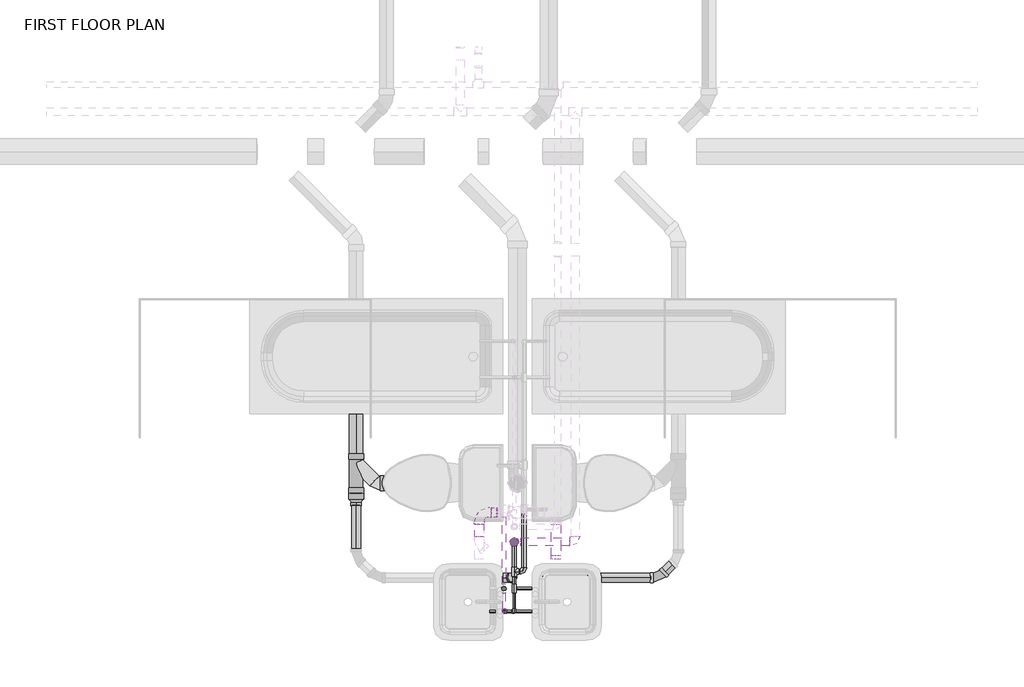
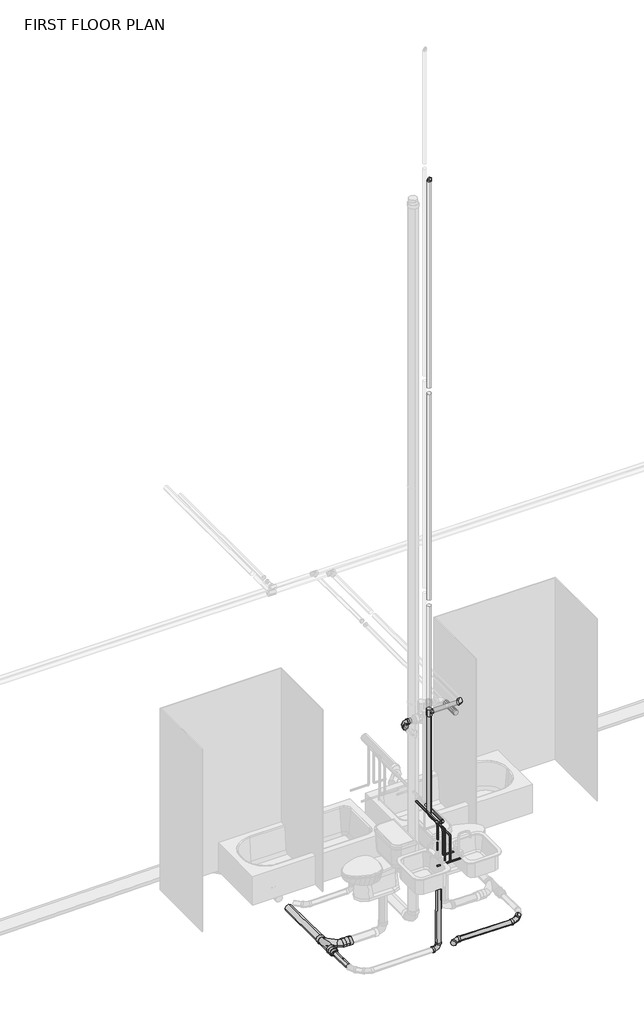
# One storey, part 5 of 29: 29 pipe fittings, 29 pipe segments.
"""IFC4 building model written with IfcOpenShell, lengths in millimetres."""

from ifc_helpers import new_model, si_unit, point, frame, frame_2d, origin, place, context, project, spatial, circle_curve, trimmed, segment, composite_curve, outline, extrude, transform, mapped, element, save
from ifc_brep_helpers import plane_surface, cylinder_surface, advanced_brep
from components import bend_pvc_sch_40_dwv_standard_f2f5988a, bend_pvc_sch_40_dwv_standard_e264ddd1, bend_pvc_sch_40_dwv_standard_a5f90810, bend_pvc_sch_40_dwv_standard_49f8c181, pipe_elbow_copper_k_764eecca, pipe_elbow_copper_k_aad62f2d, pipe_elbow_copper_k_a25a5501, pipe_tee_copper_k_36278b8a, pipe_tee_copper_k_ee363fbf, pipe_tee_copper_k_feafe2f1, pipe_transition_copper_k_859ff352, pipe_transition_copper_k_a6a91236, pipe_transition_copper_k_b4f16853, reducer_pvc_sch_40_dwv_standard_464ee0c2, reducer_pvc_sch_40_dwv_standard_80dbeaf5, standard_544587f6

model = new_model("IFC4")

# Units and contexts
model_context = context("Model", 3, world=origin())
ifc_project = project(units=[si_unit("LENGTHUNIT", "METRE", prefix="MILLI")], contexts=[model_context])

# Site, building, storey
site = spatial("IfcSite", under=ifc_project)
building = spatial("IfcBuilding", under=site)
storey = spatial("IfcBuildingStorey", under=building, Name="FIRST FLOOR PLAN", Elevation=0.0)

# Pipe fittings
placement = place(None, origin())
bend_pvc_sch_40_dwv_standard_shape = bend_pvc_sch_40_dwv_standard_f2f5988a(model_context)
element("IfcPipeFitting", 1, ObjectType="Bend - PVC - Sch 40 - DWV : Standard", at=placement, inside=storey, context=model_context, shape_type="MappedRepresentation", body=[
    mapped(bend_pvc_sch_40_dwv_standard_shape, transform((2284.2889102, 2692.9880146, -491.7174932), x_axis=(-0.9999455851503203, 0.0, 0.010432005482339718), y_axis=(-1.6591869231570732e-07, -0.9999999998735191, -1.590390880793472e-05), z_axis=(0.010432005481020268, -1.5904774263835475e-05, 0.9999455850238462))),
])
bend_pvc_sch_40_dwv_standard_2_shape = bend_pvc_sch_40_dwv_standard_e264ddd1(model_context)
element("IfcPipeFitting", 2, ObjectType="Bend - PVC - Sch 40 - DWV : Standard", at=placement, inside=storey, context=model_context, shape_type="MappedRepresentation", body=[
    mapped(bend_pvc_sch_40_dwv_standard_2_shape, transform((3054.9555598, 2692.9880146, -499.7575294), x_axis=(-0.7070684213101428, -0.7070684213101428, 0.010416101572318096), y_axis=(0.7070681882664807, -0.7071320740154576, -0.004336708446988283), z_axis=(0.01043190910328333, 0.0042985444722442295, 0.99993634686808))),
])
bend_pvc_sch_40_dwv_standard_3_shape = bend_pvc_sch_40_dwv_standard_a5f90810(model_context)
element("IfcPipeFitting", 3, ObjectType="Bend - PVC - Sch 40 - DWV : Standard", at=placement, inside=storey, context=model_context, shape_type="MappedRepresentation", body=[
    mapped(bend_pvc_sch_40_dwv_standard_3_shape, transform((2074.9736405, 2692.6283846, -517.6621546), x_axis=(-0.007495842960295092, -0.004298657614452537, -0.9999626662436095), y_axis=(-0.9999719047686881, 7.70746407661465e-05, 0.007495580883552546), z_axis=(4.485082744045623e-05, 0.9999907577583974, -0.0042991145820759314))),
])
bend_pvc_sch_40_dwv_standard_4_shape = bend_pvc_sch_40_dwv_standard_49f8c181(model_context)
element("IfcPipeFitting", 4, ObjectType="Bend - PVC - Sch 40 - DWV : Standard", at=placement, inside=storey, context=model_context, shape_type="MappedRepresentation", body=[
    mapped(bend_pvc_sch_40_dwv_standard_4_shape, transform((1864.3084875, 3124.1638117, 2298.6990858), x_axis=(0.0, 0.9999999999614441, -8.78134569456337e-06), y_axis=(-1.0000000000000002, 0.0, 0.0), z_axis=(0.0, 8.78134569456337e-06, 0.9999999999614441))),
])
element("IfcPipeFitting", 5, ObjectType="Bend - PVC - Sch 40 - DWV : Standard", at=placement, inside=storey, context=model_context, shape_type="MappedRepresentation", body=[
    mapped(bend_pvc_sch_40_dwv_standard_4_shape, transform((1864.3084875, 3124.2039607, 2298.7416851), x_axis=(0.0, 0.9999999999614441, -8.78134569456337e-06), y_axis=(-1.0000000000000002, 0.0, 0.0), z_axis=(0.0, 8.78134569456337e-06, 0.9999999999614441))),
])
pipe_elbow_copper_k_shape = pipe_elbow_copper_k_764eecca(model_context)
element("IfcPipeFitting", 6, ObjectType="Pipe Elbow : Copper- K", at=placement, inside=storey, context=model_context, shape_type="MappedRepresentation", body=[
    mapped(pipe_elbow_copper_k_shape, transform((2499.3084875, 2929.398977, 2490.6882812), x_axis=(1.0, 0.0, 0.0), y_axis=(0.0, 1.0, 0.0), z_axis=(0.0, 0.0, 1.0))),
])
pipe_elbow_copper_k_2_shape = pipe_elbow_copper_k_aad62f2d(model_context)
element("IfcPipeFitting", 7, ObjectType="Pipe Elbow : Copper- K", at=placement, inside=storey, context=model_context, shape_type="MappedRepresentation", body=[
    mapped(pipe_elbow_copper_k_2_shape, transform((2096.0834875, 2468.1949561, 1117.6), x_axis=(0.0, -1.0, 0.0), y_axis=(0.0, 0.0, -1.0), z_axis=(1.0, 0.0, 0.0))),
])
element("IfcPipeFitting", 8, ObjectType="Pipe Elbow : Copper- K", at=placement, inside=storey, context=model_context, shape_type="MappedRepresentation", body=[
    mapped(pipe_elbow_copper_k_2_shape, transform((2096.0834875, 2468.1949561, 762.0), x_axis=(0.0, 0.0, -1.0), y_axis=(-1.0, 0.0, 0.0), z_axis=(0.0, 1.0, 0.0))),
])
element("IfcPipeFitting", 9, ObjectType="Pipe Elbow : Copper- K", at=placement, inside=storey, context=model_context, shape_type="MappedRepresentation", body=[
    mapped(pipe_elbow_copper_k_2_shape, transform((2096.0834875, 2620.8535326, 762.0), x_axis=(0.0, 0.0, -1.0), y_axis=(1.0, 0.0, 0.0), z_axis=(0.0, -1.0, 0.0))),
])
element("IfcPipeFitting", 10, ObjectType="Pipe Elbow : Copper- K", at=placement, inside=storey, context=model_context, shape_type="MappedRepresentation", body=[
    mapped(pipe_elbow_copper_k_2_shape, transform((2027.8209875, 2468.1949561, 1219.2), x_axis=(0.0, -1.0, 0.0), y_axis=(0.0, 0.0, -1.0), z_axis=(1.0, 0.0, 0.0))),
])
element("IfcPipeFitting", 11, ObjectType="Pipe Elbow : Copper- K", at=placement, inside=storey, context=model_context, shape_type="MappedRepresentation", body=[
    mapped(pipe_elbow_copper_k_2_shape, transform((2027.8209875, 2468.1949561, 762.0), x_axis=(0.0, 0.0, -1.0), y_axis=(1.0, 0.0, 0.0), z_axis=(0.0, -1.0, 0.0))),
])
element("IfcPipeFitting", 12, ObjectType="Pipe Elbow : Copper- K", at=placement, inside=storey, context=model_context, shape_type="MappedRepresentation", body=[
    mapped(pipe_elbow_copper_k_2_shape, transform((2027.8209875, 2620.8535326, 792.4601563), x_axis=(0.0, 0.0, -1.0), y_axis=(-1.0, 0.0, 0.0), z_axis=(0.0, 1.0, 0.0))),
])
pipe_elbow_copper_k_3_shape = pipe_elbow_copper_k_a25a5501(model_context)
element("IfcPipeFitting", 13, ObjectType="Pipe Elbow : Copper- K", at=placement, inside=storey, context=model_context, shape_type="MappedRepresentation", body=[
    mapped(pipe_elbow_copper_k_3_shape, transform((2159.5834875, 2733.1182853, 1117.6), x_axis=(1.0, 0.0, 0.0), y_axis=(0.0, 1.0, 0.0), z_axis=(0.0, 0.0, 1.0))),
])
element("IfcPipeFitting", 14, ObjectType="Pipe Elbow : Copper- K", at=placement, inside=storey, context=model_context, shape_type="MappedRepresentation", body=[
    mapped(pipe_elbow_copper_k_3_shape, transform((2096.0834875, 2929.398977, 1117.6), x_axis=(0.0, 0.0, -1.0), y_axis=(0.0, -1.0, 0.0), z_axis=(-1.0, 0.0, 0.0))),
])
element("IfcPipeFitting", 15, ObjectType="Pipe Elbow : Copper- K", at=placement, inside=storey, context=model_context, shape_type="MappedRepresentation", body=[
    mapped(pipe_elbow_copper_k_3_shape, transform((2096.0834875, 2929.398977, 9652.0), x_axis=(0.0, 0.0, 1.0), y_axis=(0.0, -1.0, 0.0), z_axis=(1.0, 0.0, 0.0))),
])
pipe_tee_copper_k_shape = pipe_tee_copper_k_36278b8a(model_context)
element("IfcPipeFitting", 16, ObjectType="Pipe Tee : Copper- K", at=placement, inside=storey, context=model_context, shape_type="MappedRepresentation", body=[
    mapped(pipe_tee_copper_k_shape, transform((2096.0834875, 2929.398977, 2490.6882812), x_axis=(0.0, 0.0, -1.0), y_axis=(-1.0, 0.0, 0.0), z_axis=(0.0, 1.0, 0.0))),
])
pipe_tee_copper_k_2_shape = pipe_tee_copper_k_ee363fbf(model_context)
element("IfcPipeFitting", 17, ObjectType="Pipe Tee : Copper- K", at=placement, inside=storey, context=model_context, shape_type="MappedRepresentation", body=[
    mapped(pipe_tee_copper_k_2_shape, transform((2096.0834875, 2620.8535326, 1117.6), x_axis=(0.0, 1.0, 0.0), y_axis=(0.0, 0.0, 1.0), z_axis=(1.0, 0.0, 0.0))),
])
element("IfcPipeFitting", 18, ObjectType="Pipe Tee : Copper- K", at=placement, inside=storey, context=model_context, shape_type="MappedRepresentation", body=[
    mapped(pipe_tee_copper_k_2_shape, transform((2027.8209875, 2620.8535326, 1219.2), x_axis=(0.0, 1.0, 0.0), y_axis=(0.0, 0.0, 1.0), z_axis=(1.0, 0.0, 0.0))),
])
pipe_tee_copper_k_3_shape = pipe_tee_copper_k_feafe2f1(model_context)
element("IfcPipeFitting", 19, ObjectType="Pipe Tee : Copper- K", at=placement, inside=storey, context=model_context, shape_type="MappedRepresentation", body=[
    mapped(pipe_tee_copper_k_3_shape, transform((2096.0834875, 2733.1182853, 1117.6), x_axis=(0.0, 1.0, 0.0), y_axis=(-1.0, 0.0, 0.0), z_axis=(0.0, 0.0, 1.0))),
])
pipe_transition_copper_k_shape = pipe_transition_copper_k_859ff352(model_context)
element("IfcPipeFitting", 20, ObjectType="Pipe Transition : Copper- K", at=placement, inside=storey, context=model_context, shape_type="MappedRepresentation", body=[
    mapped(pipe_transition_copper_k_shape, transform((2096.0834875, 2620.8535326, 1090.6125), x_axis=(0.0, 0.0, -1.0), y_axis=(0.0, 1.0, 0.0), z_axis=(1.0, 0.0, 0.0))),
])
element("IfcPipeFitting", 21, ObjectType="Pipe Transition : Copper- K", at=placement, inside=storey, context=model_context, shape_type="MappedRepresentation", body=[
    mapped(pipe_transition_copper_k_shape, transform((2096.0834875, 2593.8660326, 1117.6), x_axis=(0.0, -1.0, 0.0), y_axis=(1.0, 0.0, 0.0), z_axis=(0.0, 0.0, 1.0))),
])
element("IfcPipeFitting", 22, ObjectType="Pipe Transition : Copper- K", at=placement, inside=storey, context=model_context, shape_type="MappedRepresentation", body=[
    mapped(pipe_transition_copper_k_shape, transform((2027.8209875, 2620.8535326, 1192.2125), x_axis=(0.0, 0.0, -1.0), y_axis=(0.0, -1.0, 0.0), z_axis=(-1.0, 0.0, 0.0))),
])
element("IfcPipeFitting", 23, ObjectType="Pipe Transition : Copper- K", at=placement, inside=storey, context=model_context, shape_type="MappedRepresentation", body=[
    mapped(pipe_transition_copper_k_shape, transform((2027.8209875, 2593.8660326, 1219.2), x_axis=(0.0, -1.0, 0.0), y_axis=(1.0, 0.0, 0.0), z_axis=(0.0, 0.0, 1.0))),
])
pipe_transition_copper_k_2_shape = pipe_transition_copper_k_a6a91236(model_context)
element("IfcPipeFitting", 24, ObjectType="Pipe Transition : Copper- K", at=placement, inside=storey, context=model_context, shape_type="MappedRepresentation", body=[
    mapped(pipe_transition_copper_k_2_shape, transform((2096.0834875, 2929.398977, 1154.90625), x_axis=(0.0, 0.0, -1.0), y_axis=(0.0, 1.0, 0.0), z_axis=(1.0, 0.0, 0.0))),
])
element("IfcPipeFitting", 25, ObjectType="Pipe Transition : Copper- K", at=placement, inside=storey, context=model_context, shape_type="MappedRepresentation", body=[
    mapped(pipe_transition_copper_k_2_shape, transform((2096.0834875, 2929.398977, 9614.69375), x_axis=(0.0, 0.0, 1.0), y_axis=(0.0, 1.0, 0.0), z_axis=(-1.0, 0.0, 0.0))),
])
pipe_transition_copper_k_3_shape = pipe_transition_copper_k_b4f16853(model_context)
element("IfcPipeFitting", 26, ObjectType="Pipe Transition : Copper- K", at=placement, inside=storey, context=model_context, shape_type="MappedRepresentation", body=[
    mapped(pipe_transition_copper_k_3_shape, transform((2096.0834875, 2702.9557853, 1117.6), x_axis=(0.0, -1.0, 0.0), y_axis=(1.0, 0.0, 0.0), z_axis=(0.0, 0.0, 1.0))),
])
reducer_pvc_sch_40_dwv_standard_shape = reducer_pvc_sch_40_dwv_standard_464ee0c2(model_context)
element("IfcPipeFitting", 27, ObjectType="Reducer - PVC - Sch 40 - DWV : Standard", at=placement, inside=storey, context=model_context, shape_type="MappedRepresentation", body=[
    mapped(reducer_pvc_sch_40_dwv_standard_shape, transform((1048.8502354, 3250.4060923, -533.3474231), x_axis=(0.0, -0.9999457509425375, 0.010416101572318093), y_axis=(0.9999457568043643, 0.00010848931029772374, 0.010414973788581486), z_axis=(-0.01041553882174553, 0.010415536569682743, 0.999891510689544))),
])
reducer_pvc_sch_40_dwv_standard_2_shape = reducer_pvc_sch_40_dwv_standard_80dbeaf5(model_context)
element("IfcPipeFitting", 28, ObjectType="Reducer - PVC - Sch 40 - DWV : Standard", at=placement, inside=storey, context=model_context, shape_type="MappedRepresentation", body=[
    mapped(reducer_pvc_sch_40_dwv_standard_2_shape, transform((1246.4769147, 3317.5011695, -531.9877185), x_axis=(0.9999457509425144, 2.1621181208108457e-07, 0.01041610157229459), y_axis=(0.00010827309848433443, 0.9999457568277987, -0.010414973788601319), z_axis=(-0.010415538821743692, 0.010415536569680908, 0.9998915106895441))),
])
standard_shape = standard_544587f6(model_context)
element("IfcPipeFitting", 29, ObjectType="GES Wye Combination with 8th Bend - PVC - Sch 40 - DWV : Standard", at=placement, inside=storey, context=model_context, shape_type="MappedRepresentation", body=[
    mapped(standard_shape, transform((1048.8502354, 3317.5011268, -534.0463298), x_axis=(0.0, -0.9999457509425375, 0.010416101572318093), y_axis=(-0.9999457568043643, -0.00010848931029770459, -0.010414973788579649), z_axis=(0.010415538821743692, -0.010415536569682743, -0.999891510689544))),
])

# Pipe segments
element("IfcPipeSegment", 30, ObjectType="Copper", at=placement, inside=storey, context=model_context, shape_type="SweptSolid", body=[
    extrude(outline(composite_curve([segment(trimmed(circle_curve(frame_2d((2929.398977, 2490.6882812)), 26.9875), [point((2956.386477, 2490.6882812))], [point((2929.398977, 2463.7007812))], False, "CARTESIAN"), True, "CONTINUOUS"), segment(trimmed(circle_curve(frame_2d((2929.398977, 2490.6882812)), 26.9875), [point((2929.398977, 2463.7007812))], [point((2902.411477, 2490.6882812))], False, "CARTESIAN"), True, "CONTINUOUS"), segment(trimmed(circle_curve(frame_2d((2929.398977, 2490.6882812)), 26.9875), [point((2902.411477, 2490.6882812))], [point((2929.398977, 2517.6757812))], False, "CARTESIAN"), True, "CONTINUOUS"), segment(trimmed(circle_curve(frame_2d((2929.398977, 2490.6882812)), 26.9875), [point((2929.398977, 2517.6757812))], [point((2956.386477, 2490.6882812))], False, "CARTESIAN"), True, "CONTINUOUS")], self_intersect=False)), frame((2138.9459875, 0.0, 0.0), z_axis=(1.0, 0.0, 0.0), x_axis=(0.0, 1.0, 0.0)), (0.0, 0.0, 1.0), 323.85),
])
element("IfcPipeSegment", 31, ObjectType="Copper", at=placement, inside=storey, context=model_context, shape_type="SweptSolid", body=[
    extrude(outline(composite_curve([segment(trimmed(circle_curve(frame_2d((2096.0834875, 2929.398977)), 26.9875), [point((2069.0959875, 2929.398977))], [point((2096.0834875, 2956.386477))], False, "CARTESIAN"), True, "CONTINUOUS"), segment(trimmed(circle_curve(frame_2d((2096.0834875, 2929.398977)), 26.9875), [point((2096.0834875, 2956.386477))], [point((2123.0709875, 2929.398977))], False, "CARTESIAN"), True, "CONTINUOUS"), segment(trimmed(circle_curve(frame_2d((2096.0834875, 2929.398977)), 26.9875), [point((2123.0709875, 2929.398977))], [point((2096.0834875, 2902.411477))], False, "CARTESIAN"), True, "CONTINUOUS"), segment(trimmed(circle_curve(frame_2d((2096.0834875, 2929.398977)), 26.9875), [point((2096.0834875, 2902.411477))], [point((2069.0959875, 2929.398977))], False, "CARTESIAN"), True, "CONTINUOUS")], self_intersect=False)), frame((0.0, 0.0, 6850.0625), z_axis=(0.0, 0.0, 1.0), x_axis=(1.0, 0.0, 0.0)), (0.0, 0.0, 1.0), 2764.63125),
])
element("IfcPipeSegment", 32, ObjectType="Copper", at=placement, inside=storey, context=model_context, shape_type="SweptSolid", body=[
    extrude(outline(composite_curve([segment(trimmed(circle_curve(frame_2d((2096.0834875, 2929.398977)), 26.9875), [point((2069.0959875, 2929.398977))], [point((2096.0834875, 2956.386477))], False, "CARTESIAN"), True, "CONTINUOUS"), segment(trimmed(circle_curve(frame_2d((2096.0834875, 2929.398977)), 26.9875), [point((2096.0834875, 2956.386477))], [point((2123.0709875, 2929.398977))], False, "CARTESIAN"), True, "CONTINUOUS"), segment(trimmed(circle_curve(frame_2d((2096.0834875, 2929.398977)), 26.9875), [point((2123.0709875, 2929.398977))], [point((2096.0834875, 2902.411477))], False, "CARTESIAN"), True, "CONTINUOUS"), segment(trimmed(circle_curve(frame_2d((2096.0834875, 2929.398977)), 26.9875), [point((2096.0834875, 2902.411477))], [point((2069.0959875, 2929.398977))], False, "CARTESIAN"), True, "CONTINUOUS")], self_intersect=False)), frame((0.0, 0.0, 2533.5507812), z_axis=(0.0, 0.0, 1.0), x_axis=(1.0, 0.0, 0.0)), (0.0, 0.0, 1.0), 1385.9867188),
])
element("IfcPipeSegment", 33, ObjectType="Copper", at=placement, inside=storey, context=model_context, shape_type="SweptSolid", body=[
    extrude(outline(composite_curve([segment(trimmed(circle_curve(frame_2d((1117.6, 2096.0834875)), 7.9375), [point((1117.6, 2088.1459875))], [point((1109.6625, 2096.0834875))], False, "CARTESIAN"), True, "CONTINUOUS"), segment(trimmed(circle_curve(frame_2d((1117.6, 2096.0834875)), 7.9375), [point((1109.6625, 2096.0834875))], [point((1117.6, 2104.0209875))], False, "CARTESIAN"), True, "CONTINUOUS"), segment(trimmed(circle_curve(frame_2d((1117.6, 2096.0834875)), 7.9375), [point((1117.6, 2104.0209875))], [point((1125.5375, 2096.0834875))], False, "CARTESIAN"), True, "CONTINUOUS"), segment(trimmed(circle_curve(frame_2d((1117.6, 2096.0834875)), 7.9375), [point((1125.5375, 2096.0834875))], [point((1117.6, 2088.1459875))], False, "CARTESIAN"), True, "CONTINUOUS")], self_intersect=False)), frame((0.0, 2485.6574561, 0.0), z_axis=(0.0, 1.0, 0.0), x_axis=(0.0, 0.0, 1.0)), (0.0, 0.0, 1.0), 102.6523264),
])
element("IfcPipeSegment", 34, ObjectType="Copper", at=placement, inside=storey, context=model_context, shape_type="SweptSolid", body=[
    extrude(outline(composite_curve([segment(trimmed(circle_curve(frame_2d((2468.1949561, 762.0)), 7.9375), [point((2476.1324561, 762.0))], [point((2468.1949561, 754.0625))], False, "CARTESIAN"), True, "CONTINUOUS"), segment(trimmed(circle_curve(frame_2d((2468.1949561, 762.0)), 7.9375), [point((2468.1949561, 754.0625))], [point((2460.2574561, 762.0))], False, "CARTESIAN"), True, "CONTINUOUS"), segment(trimmed(circle_curve(frame_2d((2468.1949561, 762.0)), 7.9375), [point((2460.2574561, 762.0))], [point((2468.1949561, 769.9375))], False, "CARTESIAN"), True, "CONTINUOUS"), segment(trimmed(circle_curve(frame_2d((2468.1949561, 762.0)), 7.9375), [point((2468.1949561, 769.9375))], [point((2476.1324561, 762.0))], False, "CARTESIAN"), True, "CONTINUOUS")], self_intersect=False)), frame((1934.1584875, 0.0, 0.0), z_axis=(1.0, 0.0, 0.0), x_axis=(0.0, 1.0, 0.0)), (0.0, 0.0, 1.0), 144.4625),
])
element("IfcPipeSegment", 35, ObjectType="Copper", at=placement, inside=storey, context=model_context, shape_type="SweptSolid", body=[
    extrude(outline(composite_curve([segment(trimmed(circle_curve(frame_2d((2096.0834875, 2468.1949561)), 7.9375), [point((2104.0209875, 2468.1949561))], [point((2096.0834875, 2460.2574561))], False, "CARTESIAN"), True, "CONTINUOUS"), segment(trimmed(circle_curve(frame_2d((2096.0834875, 2468.1949561)), 7.9375), [point((2096.0834875, 2460.2574561))], [point((2088.1459875, 2468.1949561))], False, "CARTESIAN"), True, "CONTINUOUS"), segment(trimmed(circle_curve(frame_2d((2096.0834875, 2468.1949561)), 7.9375), [point((2088.1459875, 2468.1949561))], [point((2096.0834875, 2476.1324561))], False, "CARTESIAN"), True, "CONTINUOUS"), segment(trimmed(circle_curve(frame_2d((2096.0834875, 2468.1949561)), 7.9375), [point((2096.0834875, 2476.1324561))], [point((2104.0209875, 2468.1949561))], False, "CARTESIAN"), True, "CONTINUOUS")], self_intersect=False)), frame((0.0, 0.0, 779.4625), z_axis=(0.0, 0.0, 1.0), x_axis=(1.0, 0.0, 0.0)), (0.0, 0.0, 1.0), 320.675),
])
element("IfcPipeSegment", 36, ObjectType="Copper", at=placement, inside=storey, context=model_context, shape_type="SweptSolid", body=[
    extrude(outline(composite_curve([segment(trimmed(circle_curve(frame_2d((2620.8535326, 762.0)), 7.9375), [point((2612.9160326, 762.0))], [point((2620.8535326, 769.9375))], False, "CARTESIAN"), True, "CONTINUOUS"), segment(trimmed(circle_curve(frame_2d((2620.8535326, 762.0)), 7.9375), [point((2620.8535326, 769.9375))], [point((2628.7910326, 762.0))], False, "CARTESIAN"), True, "CONTINUOUS"), segment(trimmed(circle_curve(frame_2d((2620.8535326, 762.0)), 7.9375), [point((2628.7910326, 762.0))], [point((2620.8535326, 754.0625))], False, "CARTESIAN"), True, "CONTINUOUS"), segment(trimmed(circle_curve(frame_2d((2620.8535326, 762.0)), 7.9375), [point((2620.8535326, 754.0625))], [point((2612.9160326, 762.0))], False, "CARTESIAN"), True, "CONTINUOUS")], self_intersect=False)), frame((2113.5459875, 0.0, 0.0), z_axis=(1.0, 0.0, 0.0), x_axis=(0.0, 1.0, 0.0)), (0.0, 0.0, 1.0), 133.35),
])
element("IfcPipeSegment", 37, ObjectType="Copper", at=placement, inside=storey, context=model_context, shape_type="SweptSolid", body=[
    extrude(outline(composite_curve([segment(trimmed(circle_curve(frame_2d((2096.0834875, 2620.8535326)), 7.9375), [point((2104.0209875, 2620.8535326))], [point((2096.0834875, 2612.9160326))], False, "CARTESIAN"), True, "CONTINUOUS"), segment(trimmed(circle_curve(frame_2d((2096.0834875, 2620.8535326)), 7.9375), [point((2096.0834875, 2612.9160326))], [point((2088.1459875, 2620.8535326))], False, "CARTESIAN"), True, "CONTINUOUS"), segment(trimmed(circle_curve(frame_2d((2096.0834875, 2620.8535326)), 7.9375), [point((2088.1459875, 2620.8535326))], [point((2096.0834875, 2628.7910326))], False, "CARTESIAN"), True, "CONTINUOUS"), segment(trimmed(circle_curve(frame_2d((2096.0834875, 2620.8535326)), 7.9375), [point((2096.0834875, 2628.7910326))], [point((2104.0209875, 2620.8535326))], False, "CARTESIAN"), True, "CONTINUOUS")], self_intersect=False)), frame((0.0, 0.0, 779.4625), z_axis=(0.0, 0.0, 1.0), x_axis=(1.0, 0.0, 0.0)), (0.0, 0.0, 1.0), 305.59375),
])
element("IfcPipeSegment", 38, ObjectType="Copper", at=placement, inside=storey, context=model_context, shape_type="SweptSolid", body=[
    extrude(outline(composite_curve([segment(trimmed(circle_curve(frame_2d((1117.6, 2096.0834875)), 11.1125), [point((1117.6, 2084.9709875))], [point((1106.4875, 2096.0834875))], False, "CARTESIAN"), True, "CONTINUOUS"), segment(trimmed(circle_curve(frame_2d((1117.6, 2096.0834875)), 11.1125), [point((1106.4875, 2096.0834875))], [point((1117.6, 2107.1959875))], False, "CARTESIAN"), True, "CONTINUOUS"), segment(trimmed(circle_curve(frame_2d((1117.6, 2096.0834875)), 11.1125), [point((1117.6, 2107.1959875))], [point((1128.7125, 2096.0834875))], False, "CARTESIAN"), True, "CONTINUOUS"), segment(trimmed(circle_curve(frame_2d((1117.6, 2096.0834875)), 11.1125), [point((1128.7125, 2096.0834875))], [point((1117.6, 2084.9709875))], False, "CARTESIAN"), True, "CONTINUOUS")], self_intersect=False)), frame((0.0, 2647.8410326, 0.0), z_axis=(0.0, 1.0, 0.0), x_axis=(0.0, 0.0, 1.0)), (0.0, 0.0, 1.0), 47.9710027),
])
element("IfcPipeSegment", 39, ObjectType="Copper", at=placement, inside=storey, context=model_context, shape_type="SweptSolid", body=[
    extrude(outline(composite_curve([segment(trimmed(circle_curve(frame_2d((1219.2, 2027.8209875)), 7.9375), [point((1219.2, 2019.8834875))], [point((1211.2625, 2027.8209875))], False, "CARTESIAN"), True, "CONTINUOUS"), segment(trimmed(circle_curve(frame_2d((1219.2, 2027.8209875)), 7.9375), [point((1211.2625, 2027.8209875))], [point((1219.2, 2035.7584875))], False, "CARTESIAN"), True, "CONTINUOUS"), segment(trimmed(circle_curve(frame_2d((1219.2, 2027.8209875)), 7.9375), [point((1219.2, 2035.7584875))], [point((1227.1375, 2027.8209875))], False, "CARTESIAN"), True, "CONTINUOUS"), segment(trimmed(circle_curve(frame_2d((1219.2, 2027.8209875)), 7.9375), [point((1227.1375, 2027.8209875))], [point((1219.2, 2019.8834875))], False, "CARTESIAN"), True, "CONTINUOUS")], self_intersect=False)), frame((0.0, 2485.6574561, 0.0), z_axis=(0.0, 1.0, 0.0), x_axis=(0.0, 0.0, 1.0)), (0.0, 0.0, 1.0), 102.6523264),
])
element("IfcPipeSegment", 40, ObjectType="Copper", at=placement, inside=storey, context=model_context, shape_type="SweptSolid", body=[
    extrude(outline(composite_curve([segment(trimmed(circle_curve(frame_2d((2468.1949561, 762.0)), 7.9375), [point((2460.2574561, 762.0))], [point((2468.1949561, 769.9375))], False, "CARTESIAN"), True, "CONTINUOUS"), segment(trimmed(circle_curve(frame_2d((2468.1949561, 762.0)), 7.9375), [point((2468.1949561, 769.9375))], [point((2476.1324561, 762.0))], False, "CARTESIAN"), True, "CONTINUOUS"), segment(trimmed(circle_curve(frame_2d((2468.1949561, 762.0)), 7.9375), [point((2476.1324561, 762.0))], [point((2468.1949561, 754.0625))], False, "CARTESIAN"), True, "CONTINUOUS"), segment(trimmed(circle_curve(frame_2d((2468.1949561, 762.0)), 7.9375), [point((2468.1949561, 754.0625))], [point((2460.2574561, 762.0))], False, "CARTESIAN"), True, "CONTINUOUS")], self_intersect=False)), frame((2045.2834875, 0.0, 0.0), z_axis=(1.0, 0.0, 0.0), x_axis=(0.0, 1.0, 0.0)), (0.0, 0.0, 1.0), 192.0875),
])
element("IfcPipeSegment", 41, ObjectType="Copper", at=placement, inside=storey, context=model_context, shape_type="SweptSolid", body=[
    extrude(outline(composite_curve([segment(trimmed(circle_curve(frame_2d((2027.8209875, 2468.1949561)), 7.9375), [point((2035.7584875, 2468.1949561))], [point((2027.8209875, 2460.2574561))], False, "CARTESIAN"), True, "CONTINUOUS"), segment(trimmed(circle_curve(frame_2d((2027.8209875, 2468.1949561)), 7.9375), [point((2027.8209875, 2460.2574561))], [point((2019.8834875, 2468.1949561))], False, "CARTESIAN"), True, "CONTINUOUS"), segment(trimmed(circle_curve(frame_2d((2027.8209875, 2468.1949561)), 7.9375), [point((2019.8834875, 2468.1949561))], [point((2027.8209875, 2476.1324561))], False, "CARTESIAN"), True, "CONTINUOUS"), segment(trimmed(circle_curve(frame_2d((2027.8209875, 2468.1949561)), 7.9375), [point((2027.8209875, 2476.1324561))], [point((2035.7584875, 2468.1949561))], False, "CARTESIAN"), True, "CONTINUOUS")], self_intersect=False)), frame((0.0, 0.0, 779.4625), z_axis=(0.0, 0.0, 1.0), x_axis=(1.0, 0.0, 0.0)), (0.0, 0.0, 1.0), 422.275),
])
element("IfcPipeSegment", 42, ObjectType="Copper", at=placement, inside=storey, context=model_context, shape_type="SweptSolid", body=[
    extrude(outline(composite_curve([segment(trimmed(circle_curve(frame_2d((2027.8209875, 2620.8535326)), 7.9375), [point((2035.7584875, 2620.8535326))], [point((2027.8209875, 2612.9160326))], False, "CARTESIAN"), True, "CONTINUOUS"), segment(trimmed(circle_curve(frame_2d((2027.8209875, 2620.8535326)), 7.9375), [point((2027.8209875, 2612.9160326))], [point((2019.8834875, 2620.8535326))], False, "CARTESIAN"), True, "CONTINUOUS"), segment(trimmed(circle_curve(frame_2d((2027.8209875, 2620.8535326)), 7.9375), [point((2019.8834875, 2620.8535326))], [point((2027.8209875, 2628.7910326))], False, "CARTESIAN"), True, "CONTINUOUS"), segment(trimmed(circle_curve(frame_2d((2027.8209875, 2620.8535326)), 7.9375), [point((2027.8209875, 2628.7910326))], [point((2035.7584875, 2620.8535326))], False, "CARTESIAN"), True, "CONTINUOUS")], self_intersect=False)), frame((0.0, 0.0, 809.9226562), z_axis=(0.0, 0.0, 1.0), x_axis=(1.0, 0.0, 0.0)), (0.0, 0.0, 1.0), 376.7335937),
])
element("IfcPipeSegment", 43, ObjectType="Copper", at=placement, inside=storey, context=model_context, shape_type="SweptSolid", body=[
    extrude(outline(composite_curve([segment(trimmed(circle_curve(frame_2d((1219.2, 2027.8209875)), 11.1125), [point((1219.2, 2016.7084875))], [point((1208.0875, 2027.8209875))], False, "CARTESIAN"), True, "CONTINUOUS"), segment(trimmed(circle_curve(frame_2d((1219.2, 2027.8209875)), 11.1125), [point((1208.0875, 2027.8209875))], [point((1219.2, 2038.9334875))], False, "CARTESIAN"), True, "CONTINUOUS"), segment(trimmed(circle_curve(frame_2d((1219.2, 2027.8209875)), 11.1125), [point((1219.2, 2038.9334875))], [point((1230.3125, 2027.8209875))], False, "CARTESIAN"), True, "CONTINUOUS"), segment(trimmed(circle_curve(frame_2d((1219.2, 2027.8209875)), 11.1125), [point((1230.3125, 2027.8209875))], [point((1219.2, 2016.7084875))], False, "CARTESIAN"), True, "CONTINUOUS")], self_intersect=False)), frame((0.0, 2647.8410326, 0.0), z_axis=(0.0, 1.0, 0.0), x_axis=(0.0, 0.0, 1.0)), (0.0, 0.0, 1.0), 446.7666062),
])
element("IfcPipeSegment", 44, ObjectType="Copper", at=placement, inside=storey, context=model_context, shape_type="SweptSolid", body=[
    extrude(outline(composite_curve([segment(trimmed(circle_curve(frame_2d((2733.1182853, 1117.6)), 14.2875), [point((2718.8307853, 1117.6))], [point((2733.1182853, 1131.8875))], False, "CARTESIAN"), True, "CONTINUOUS"), segment(trimmed(circle_curve(frame_2d((2733.1182853, 1117.6)), 14.2875), [point((2733.1182853, 1131.8875))], [point((2747.4057853, 1117.6))], False, "CARTESIAN"), True, "CONTINUOUS"), segment(trimmed(circle_curve(frame_2d((2733.1182853, 1117.6)), 14.2875), [point((2747.4057853, 1117.6))], [point((2733.1182853, 1103.3125))], False, "CARTESIAN"), True, "CONTINUOUS"), segment(trimmed(circle_curve(frame_2d((2733.1182853, 1117.6)), 14.2875), [point((2733.1182853, 1103.3125))], [point((2718.8307853, 1117.6))], False, "CARTESIAN"), True, "CONTINUOUS")], self_intersect=False)), frame((2126.2459875, 0.0, 0.0), z_axis=(1.0, 0.0, 0.0), x_axis=(0.0, 1.0, 0.0)), (0.0, 0.0, 1.0), 9.525),
])
element("IfcPipeSegment", 45, ObjectType="Copper", at=placement, inside=storey, context=model_context, shape_type="SweptSolid", body=[
    extrude(outline(composite_curve([segment(trimmed(circle_curve(frame_2d((1117.6, 2096.0834875)), 14.2875), [point((1117.6, 2081.7959875))], [point((1103.3125, 2096.0834875))], False, "CARTESIAN"), True, "CONTINUOUS"), segment(trimmed(circle_curve(frame_2d((1117.6, 2096.0834875)), 14.2875), [point((1103.3125, 2096.0834875))], [point((1117.6, 2110.3709875))], False, "CARTESIAN"), True, "CONTINUOUS"), segment(trimmed(circle_curve(frame_2d((1117.6, 2096.0834875)), 14.2875), [point((1117.6, 2110.3709875))], [point((1131.8875, 2096.0834875))], False, "CARTESIAN"), True, "CONTINUOUS"), segment(trimmed(circle_curve(frame_2d((1117.6, 2096.0834875)), 14.2875), [point((1131.8875, 2096.0834875))], [point((1117.6, 2081.7959875))], False, "CARTESIAN"), True, "CONTINUOUS")], self_intersect=False)), frame((0.0, 2763.2807853, 0.0), z_axis=(0.0, 1.0, 0.0), x_axis=(0.0, 0.0, 1.0)), (0.0, 0.0, 1.0), 142.3056917),
])
element("IfcPipeSegment", 46, ObjectType="Copper", at=placement, inside=storey, context=model_context, shape_type="SweptSolid", body=[
    extrude(outline(composite_curve([segment(trimmed(circle_curve(frame_2d((1117.6, 2159.5834875)), 14.2875), [point((1117.6, 2173.8709875))], [point((1131.8875, 2159.5834875))], False, "CARTESIAN"), True, "CONTINUOUS"), segment(trimmed(circle_curve(frame_2d((1117.6, 2159.5834875)), 14.2875), [point((1131.8875, 2159.5834875))], [point((1117.6, 2145.2959875))], False, "CARTESIAN"), True, "CONTINUOUS"), segment(trimmed(circle_curve(frame_2d((1117.6, 2159.5834875)), 14.2875), [point((1117.6, 2145.2959875))], [point((1103.3125, 2159.5834875))], False, "CARTESIAN"), True, "CONTINUOUS"), segment(trimmed(circle_curve(frame_2d((1117.6, 2159.5834875)), 14.2875), [point((1103.3125, 2159.5834875))], [point((1117.6, 2173.8709875))], False, "CARTESIAN"), True, "CONTINUOUS")], self_intersect=False)), frame((0.0, 2756.9307853, 0.0), z_axis=(0.0, 1.0, 0.0), x_axis=(0.0, 0.0, 1.0)), (0.0, 0.0, 1.0), 357.7813964),
])
element("IfcPipeSegment", 47, ObjectType="Copper", at=placement, inside=storey, context=model_context, shape_type="SweptSolid", body=[
    extrude(outline(composite_curve([segment(trimmed(circle_curve(frame_2d((2096.0834875, 2929.398977)), 26.9875), [point((2123.0709875, 2929.398977))], [point((2096.0834875, 2902.411477))], False, "CARTESIAN"), True, "CONTINUOUS"), segment(trimmed(circle_curve(frame_2d((2096.0834875, 2929.398977)), 26.9875), [point((2096.0834875, 2902.411477))], [point((2069.0959875, 2929.398977))], False, "CARTESIAN"), True, "CONTINUOUS"), segment(trimmed(circle_curve(frame_2d((2096.0834875, 2929.398977)), 26.9875), [point((2069.0959875, 2929.398977))], [point((2096.0834875, 2956.386477))], False, "CARTESIAN"), True, "CONTINUOUS"), segment(trimmed(circle_curve(frame_2d((2096.0834875, 2929.398977)), 26.9875), [point((2096.0834875, 2956.386477))], [point((2123.0709875, 2929.398977))], False, "CARTESIAN"), True, "CONTINUOUS")], self_intersect=False)), frame((0.0, 0.0, 1154.90625), z_axis=(0.0, 0.0, 1.0), x_axis=(1.0, 0.0, 0.0)), (0.0, 0.0, 1.0), 1292.9195313),
])
element("IfcPipeSegment", 48, ObjectType="Copper", at=placement, inside=storey, context=model_context, shape_type="SweptSolid", body=[
    extrude(outline(composite_curve([segment(trimmed(circle_curve(frame_2d((2096.0834875, 2929.398977)), 26.9875), [point((2069.0959875, 2929.398977))], [point((2096.0834875, 2956.386477))], False, "CARTESIAN"), True, "CONTINUOUS"), segment(trimmed(circle_curve(frame_2d((2096.0834875, 2929.398977)), 26.9875), [point((2096.0834875, 2956.386477))], [point((2123.0709875, 2929.398977))], False, "CARTESIAN"), True, "CONTINUOUS"), segment(trimmed(circle_curve(frame_2d((2096.0834875, 2929.398977)), 26.9875), [point((2123.0709875, 2929.398977))], [point((2096.0834875, 2902.411477))], False, "CARTESIAN"), True, "CONTINUOUS"), segment(trimmed(circle_curve(frame_2d((2096.0834875, 2929.398977)), 26.9875), [point((2096.0834875, 2902.411477))], [point((2069.0959875, 2929.398977))], False, "CARTESIAN"), True, "CONTINUOUS")], self_intersect=False)), frame((0.0, 0.0, 4005.2625), z_axis=(0.0, 0.0, 1.0), x_axis=(1.0, 0.0, 0.0)), (0.0, 0.0, 1.0), 2759.075),
])
element("IfcPipeSegment", 49, ObjectType="PVC - SAN/STORM", at=placement, inside=storey, context=model_context, shape_type="SweptSolid", body=[
    extrude(outline(composite_curve([segment(trimmed(circle_curve(frame_2d((0.0, -30.1625)), 30.1625), [point((0.0, -60.325))], [point((-30.1625, -30.1625))], False, "CARTESIAN"), True, "CONTINUOUS"), segment(trimmed(circle_curve(frame_2d((0.0, -30.1625)), 30.1625), [point((-30.1625, -30.1625))], [point((0.0, 0.0))], False, "CARTESIAN"), True, "CONTINUOUS"), segment(trimmed(circle_curve(frame_2d((0.0, -30.1625)), 30.1625), [point((0.0, 0.0))], [point((30.1625, -30.1625))], False, "CARTESIAN"), True, "CONTINUOUS"), segment(trimmed(circle_curve(frame_2d((0.0, -30.1625)), 30.1625), [point((30.1625, -30.1625))], [point((0.0, -60.325))], False, "CARTESIAN"), True, "CONTINUOUS")], self_intersect=False)), frame((2997.8086696, 2723.1505146, -499.1613403), z_axis=(-0.9999455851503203, 0.0, 0.010432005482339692), x_axis=(0.010432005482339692, 0.0, 0.9999455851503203)), (0.0, 0.0, 1.0), 656.4085876),
])
element("IfcPipeSegment", 50, ObjectType="PVC - SAN/STORM", at=placement, inside=storey, context=model_context, shape_type="SweptSolid", body=[
    extrude(outline(composite_curve([segment(trimmed(circle_curve(frame_2d((0.0, -30.1625)), 30.1625), [point((30.1608639, -30.4766586))], [point((-0.3141586, -60.3233639))], False, "CARTESIAN"), True, "CONTINUOUS"), segment(trimmed(circle_curve(frame_2d((0.0, -30.1625)), 30.1625), [point((-0.3141586, -60.3233639))], [point((-30.1608638, -29.8483414))], False, "CARTESIAN"), True, "CONTINUOUS"), segment(trimmed(circle_curve(frame_2d((0.0, -30.1625)), 30.1625), [point((-30.1608638, -29.8483414))], [point((0.3141586, -0.0016361))], False, "CARTESIAN"), True, "CONTINUOUS"), segment(trimmed(circle_curve(frame_2d((0.0, -30.1625)), 30.1625), [point((0.3141586, -0.0016361))], [point((30.1608639, -30.4766586))], False, "CARTESIAN"), True, "CONTINUOUS")], self_intersect=False)), frame((3141.9119388, 2780.388681, -470.8792901), z_axis=(-0.7070684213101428, -0.707068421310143, 0.010416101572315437), x_axis=(0.7071451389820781, -0.7069917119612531, 0.010414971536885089)), (0.0, 0.0, 1.0), 65.8315622),
])
element("IfcPipeSegment", 51, ObjectType="PVC - SAN/STORM", at=placement, inside=storey, context=model_context, shape_type="SweptSolid", body=[
    extrude(outline(composite_curve([segment(trimmed(circle_curve(frame_2d((0.0, -30.1625)), 30.1625), [point((30.1625, -30.1625))], [point((0.0, -60.325))], False, "CARTESIAN"), True, "CONTINUOUS"), segment(trimmed(circle_curve(frame_2d((0.0, -30.1625)), 30.1625), [point((0.0, -60.325))], [point((-30.1625, -30.1625))], False, "CARTESIAN"), True, "CONTINUOUS"), segment(trimmed(circle_curve(frame_2d((0.0, -30.1625)), 30.1625), [point((-30.1625, -30.1625))], [point((0.0, 0.0))], False, "CARTESIAN"), True, "CONTINUOUS"), segment(trimmed(circle_curve(frame_2d((0.0, -30.1625)), 30.1625), [point((0.0, 0.0))], [point((30.1625, -30.1625))], False, "CARTESIAN"), True, "CONTINUOUS")], self_intersect=False)), frame((1048.8502354, 3171.349574, -502.3597814), z_axis=(0.0, -0.9999457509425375, 0.010416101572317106), x_axis=(1.0, 0.0, 0.0)), (0.0, 0.0, 1.0), 285.6031763),
])
element("IfcPipeSegment", 52, ObjectType="PVC - SAN/STORM", at=placement, inside=storey, context=model_context, shape_type="SweptSolid", body=[
    extrude(outline(composite_curve([segment(trimmed(circle_curve(frame_2d((0.0, -44.45)), 44.45), [point((44.45, -44.45))], [point((0.0, -88.9))], False, "CARTESIAN"), True, "CONTINUOUS"), segment(trimmed(circle_curve(frame_2d((0.0, -44.45)), 44.45), [point((0.0, -88.9))], [point((-44.45, -44.45))], False, "CARTESIAN"), True, "CONTINUOUS"), segment(trimmed(circle_curve(frame_2d((0.0, -44.45)), 44.45), [point((-44.45, -44.45))], [point((0.0, 0.0))], False, "CARTESIAN"), True, "CONTINUOUS"), segment(trimmed(circle_curve(frame_2d((0.0, -44.45)), 44.45), [point((0.0, 0.0))], [point((44.45, -44.45))], False, "CARTESIAN"), True, "CONTINUOUS")], self_intersect=False)), frame((1048.8502354, 4209.7923802, -498.8886188), z_axis=(0.0, -0.9999457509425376, 0.010416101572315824), x_axis=(1.0, 0.0, 0.0)), (0.0, 0.0, 1.0), 695.0439157),
])
element("IfcPipeSegment", 53, ObjectType="PVC - SAN/STORM", at=placement, inside=storey, context=model_context, shape_type="SweptSolid", body=[
    extrude(outline(composite_curve([segment(trimmed(circle_curve(frame_2d((0.0, -30.1625)), 30.1625), [point((-15.0055046, -3.9974233))], [point((26.1650768, -15.1569954))], False, "CARTESIAN"), True, "CONTINUOUS"), segment(trimmed(circle_curve(frame_2d((0.0, -30.1625)), 30.1625), [point((26.1650768, -15.1569954))], [point((15.0055046, -56.3275767))], False, "CARTESIAN"), True, "CONTINUOUS"), segment(trimmed(circle_curve(frame_2d((0.0, -30.1625)), 30.1625), [point((15.0055046, -56.3275767))], [point((-26.1650767, -45.1680045))], False, "CARTESIAN"), True, "CONTINUOUS"), segment(trimmed(circle_curve(frame_2d((0.0, -30.1625)), 30.1625), [point((-26.1650767, -45.1680045))], [point((-15.0055046, -3.9974233))], False, "CARTESIAN"), True, "CONTINUOUS")], self_intersect=False)), frame((2075.5568186, 2723.1250423, -439.9945211), z_axis=(0.007495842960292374, 0.0042986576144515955, 0.9999626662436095), x_axis=(0.9999719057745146, -3.222296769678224e-05, -0.007495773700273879)), (0.0, 0.0, 1.0), 862.2119669),
])
element("IfcPipeSegment", 54, ObjectType="PVC - SAN/STORM", at=placement, inside=storey, context=model_context, shape_type="AdvancedBrep", body=[
    advanced_brep(
    [(2402.4709874, 2838.1336985, 2451.0905344), (2372.3084874, 2838.1323611, 2481.2530343), (2342.1459874, 2838.1336991, 2451.0905344), (2372.3084874, 2838.1350364, 2420.9280344), (2402.4709894, 3046.3636114, 2451.0997691), (2372.3084894, 3046.3649493, 2420.9372691), (2342.1459894, 3046.363612, 2451.0997691), (2372.3084894, 3046.362274, 2481.2622691)],
    [
        (0, 1, circle_curve(frame((2372.3084874, 2838.1336985, 2451.0905344), z_axis=(0.0, -0.9999999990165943, -4.434874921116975e-05), x_axis=(1.0, 0.0, 0.0)), 30.1625)),
        (1, 2, circle_curve(frame((2372.3084874, 2838.1336988, 2451.0905344), z_axis=(0.0, -0.9999999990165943, -4.434874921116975e-05), x_axis=(1.0, 0.0, 0.0)), 30.1625)),
        (2, 3, circle_curve(frame((2372.3084874, 2838.1336991, 2451.0905344), z_axis=(0.0, -0.9999999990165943, -4.434874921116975e-05), x_axis=(1.0, 0.0, 0.0)), 30.1625)),
        (3, 0, circle_curve(frame((2372.3084874, 2838.1336988, 2451.0905344), z_axis=(0.0, -0.9999999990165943, -4.434874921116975e-05), x_axis=(1.0, 0.0, 0.0)), 30.1625)),
        (4, 5, circle_curve(frame((2372.3084874, 3046.3636114, 2451.0997691), z_axis=(0.0, 0.9999999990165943, 4.434874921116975e-05), x_axis=(1.0, 0.0, 0.0)), 30.162502)),
        (5, 6, circle_curve(frame((2372.3084874, 3046.3636117, 2451.0997691), z_axis=(0.0, 0.9999999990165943, 4.434874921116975e-05), x_axis=(1.0, 0.0, 0.0)), 30.1625)),
        (6, 7, circle_curve(frame((2372.3084874, 3046.363612, 2451.0997691), z_axis=(0.0, 0.9999999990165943, 4.434874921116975e-05), x_axis=(1.0, 0.0, 0.0)), 30.162498)),
        (7, 4, circle_curve(frame((2372.3084874, 3046.3636117, 2451.0997691), z_axis=(0.0, 0.9999999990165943, 4.434874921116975e-05), x_axis=(1.0, 0.0, 0.0)), 30.1625)),
        (0, 4),
        (7, 1),
        (6, 2),
        (5, 3),
    ],
    [
        plane_surface(frame((2342.1459874, 2838.1336991, 2451.0905344), z_axis=(-9.71344828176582e-09, -0.9999999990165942, -4.4348749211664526e-05), x_axis=(0.0, -4.434874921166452e-05, 0.9999999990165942))),
        plane_surface(frame((2342.1459894, 3046.363612, 2451.0997691), z_axis=(9.71344828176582e-09, 0.9999999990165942, 4.4348749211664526e-05), x_axis=(0.0, -4.434874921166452e-05, 0.9999999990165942))),
        cylinder_surface(frame((2372.3084874, 2838.1336988, 2451.0905344), z_axis=(0.0, -0.9999999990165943, -4.434874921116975e-05), x_axis=(1.0, 0.0, 0.0)), 30.1625),
    ],
    [
        (0, [[1, 2, 3, 4]]),
        (1, [[5, 6, 7, 8]]),
        (2, [[-1, 9, -8, 10]]),
        (2, [[-2, -10, -7, 11]]),
        (2, [[-3, -11, -6, 12]]),
        (2, [[-4, -12, -5, -9]]),
    ],
),
])
element("IfcPipeSegment", 55, ObjectType="PVC - SAN/STORM", at=placement, inside=storey, context=model_context, shape_type="SweptSolid", body=[
    extrude(outline(composite_curve([segment(trimmed(circle_curve(frame_2d((3124.1638117, 2298.6990858)), 30.1625), [point((3094.0013117, 2298.6990858))], [point((3124.1638117, 2328.8615858))], False, "CARTESIAN"), True, "CONTINUOUS"), segment(trimmed(circle_curve(frame_2d((3124.1638117, 2298.6990858)), 30.1625), [point((3124.1638117, 2328.8615858))], [point((3154.3263117, 2298.6990858))], False, "CARTESIAN"), True, "CONTINUOUS"), segment(trimmed(circle_curve(frame_2d((3124.1638117, 2298.6990858)), 30.1625), [point((3154.3263117, 2298.6990858))], [point((3124.1638117, 2268.5365858))], False, "CARTESIAN"), True, "CONTINUOUS"), segment(trimmed(circle_curve(frame_2d((3124.1638117, 2298.6990858)), 30.1625), [point((3124.1638117, 2268.5365858))], [point((3094.0013117, 2298.6990858))], False, "CARTESIAN"), True, "CONTINUOUS")], self_intersect=False)), frame((1942.1086875, 0.0, 0.0), z_axis=(1.0, 0.0, 0.0), x_axis=(0.0, 1.0, 0.0)), (0.0, 0.0, 1.0), 41.2622926),
])
element("IfcPipeSegment", 56, ObjectType="PVC - SAN/STORM", at=placement, inside=storey, context=model_context, shape_type="AdvancedBrep", body=[
    advanced_brep(
    [(1894.4709867, 2965.2508146, 2298.7004506), (1864.3084867, 2965.2508149, 2328.8629506), (1834.1459867, 2965.2508152, 2298.7004506), (1864.3084867, 2965.2508149, 2268.5379506), (1894.4709875, 3046.3636114, 2298.7004506), (1864.3084875, 3046.3636117, 2268.5379506), (1834.1459875, 3046.363612, 2298.7004506), (1864.3084875, 3046.3636117, 2328.8629506)],
    [
        (0, 1, circle_curve(frame((1864.3084867, 2965.2508146, 2298.7004506), z_axis=(0.0, -1.0, 0.0), x_axis=(1.0, 0.0, 0.0)), 30.1625)),
        (1, 2, circle_curve(frame((1864.3084867, 2965.2508149, 2298.7004506), z_axis=(0.0, -1.0, 0.0), x_axis=(1.0, 0.0, 0.0)), 30.1625)),
        (2, 3, circle_curve(frame((1864.3084867, 2965.2508152, 2298.7004506), z_axis=(0.0, -1.0, 0.0), x_axis=(1.0, 0.0, 0.0)), 30.1625)),
        (3, 0, circle_curve(frame((1864.3084867, 2965.2508149, 2298.7004506), z_axis=(0.0, -1.0, 0.0), x_axis=(1.0, 0.0, 0.0)), 30.1625)),
        (4, 5, circle_curve(frame((1864.3084867, 3046.3636114, 2298.7004506), z_axis=(0.0, 1.0, 0.0), x_axis=(1.0, 0.0, 0.0)), 30.1625008)),
        (5, 6, circle_curve(frame((1864.3084867, 3046.3636117, 2298.7004506), z_axis=(0.0, 1.0, 0.0), x_axis=(1.0, 0.0, 0.0)), 30.1625)),
        (6, 7, circle_curve(frame((1864.3084867, 3046.363612, 2298.7004506), z_axis=(0.0, 1.0, 0.0), x_axis=(1.0, 0.0, 0.0)), 30.1624992)),
        (7, 4, circle_curve(frame((1864.3084867, 3046.3636117, 2298.7004506), z_axis=(0.0, 1.0, 0.0), x_axis=(1.0, 0.0, 0.0)), 30.1625)),
        (0, 4),
        (7, 1),
        (6, 2),
        (5, 3),
    ],
    [
        plane_surface(frame((1834.1459867, 2965.2508152, 2298.7004506), z_axis=(-9.57436740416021e-09, -1.0, 0.0), x_axis=(0.0, 0.0, 1.0))),
        plane_surface(frame((1834.1459875, 3046.363612, 2298.7004506), z_axis=(9.57436740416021e-09, 1.0, 0.0), x_axis=(0.0, 0.0, 1.0))),
        cylinder_surface(frame((1864.3084867, 2965.2508149, 2298.7004506), z_axis=(0.0, -1.0, 0.0), x_axis=(1.0, 0.0, 0.0)), 30.1625),
    ],
    [
        (0, [[1, 2, 3, 4]]),
        (1, [[5, 6, 7, 8]]),
        (2, [[-1, 9, -8, 10]]),
        (2, [[-2, -10, -7, 11]]),
        (2, [[-3, -11, -6, 12]]),
        (2, [[-4, -12, -5, -9]]),
    ],
),
])
element("IfcPipeSegment", 57, ObjectType="PVC - SAN/STORM", at=placement, inside=storey, context=model_context, shape_type="SweptSolid", body=[
    extrude(outline(composite_curve([segment(trimmed(circle_curve(frame_2d((0.0, 30.1625)), 30.1625), [point((0.0, 60.325))], [point((30.1625, 30.1625))], False, "CARTESIAN"), True, "CONTINUOUS"), segment(trimmed(circle_curve(frame_2d((0.0, 30.1625)), 30.1625), [point((30.1625, 30.1625))], [point((0.0, 0.0))], False, "CARTESIAN"), True, "CONTINUOUS"), segment(trimmed(circle_curve(frame_2d((0.0, 30.1625)), 30.1625), [point((0.0, 0.0))], [point((-30.1625, 30.1625))], False, "CARTESIAN"), True, "CONTINUOUS"), segment(trimmed(circle_curve(frame_2d((0.0, 30.1625)), 30.1625), [point((-30.1625, 30.1625))], [point((0.0, 60.325))], False, "CARTESIAN"), True, "CONTINUOUS")], self_intersect=False)), frame((2342.1459875, 2813.8624472, 2451.096381), z_axis=(-1.0366444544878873e-11, 1.0, 0.0), x_axis=(0.0, 0.0, 1.0)), (0.0, 0.0, 1.0), 232.5440552),
])
element("IfcPipeSegment", 58, ObjectType="PVC - SAN/STORM", at=placement, inside=storey, context=model_context, shape_type="SweptSolid", body=[
    extrude(outline(composite_curve([segment(trimmed(circle_curve(frame_2d((3124.1638117, 2298.6990858)), 30.1625), [point((3094.0013117, 2298.6990858))], [point((3124.1638117, 2328.8615858))], False, "CARTESIAN"), True, "CONTINUOUS"), segment(trimmed(circle_curve(frame_2d((3124.1638117, 2298.6990858)), 30.1625), [point((3124.1638117, 2328.8615858))], [point((3154.3263117, 2298.6990858))], False, "CARTESIAN"), True, "CONTINUOUS"), segment(trimmed(circle_curve(frame_2d((3124.1638117, 2298.6990858)), 30.1625), [point((3154.3263117, 2298.6990858))], [point((3124.1638117, 2268.5365858))], False, "CARTESIAN"), True, "CONTINUOUS"), segment(trimmed(circle_curve(frame_2d((3124.1638117, 2298.6990858)), 30.1625), [point((3124.1638117, 2268.5365858))], [point((3094.0013117, 2298.6990858))], False, "CARTESIAN"), True, "CONTINUOUS")], self_intersect=False)), frame((1942.1086875, 0.0, 0.0), z_axis=(1.0, 0.0, 0.0), x_axis=(0.0, 1.0, 0.0)), (0.0, 0.0, 1.0), 34.7097462),
])

save(model, "model.ifc")
